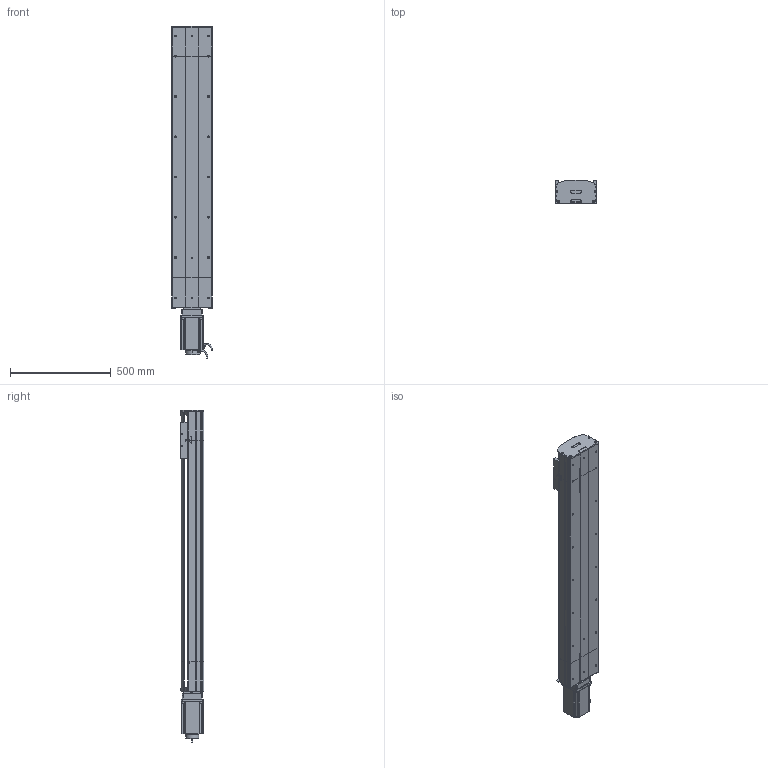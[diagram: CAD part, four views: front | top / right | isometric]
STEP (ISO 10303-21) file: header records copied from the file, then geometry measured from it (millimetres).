
FILE_DESCRIPTION (( 'STEP AP214' ), '1' );
FILE_NAME ('D20 TSH MD S1100.STEP', '2010-06-30T08:40:06', ( 'Conseil Régional Haute-Normandie' ), ( 'Conseil Régional Haute-Normandie' ), 'SwSTEP 2.0', 'SolidWorks 2010', '' );
FILE_SCHEMA (( 'AUTOMOTIVE_DESIGN' ));
Length unit declared in the file: millimetre
Products named in the file (33): head MD D20_Default; Plaque racord D20_Default; plaque de  bout head MD D20_Default; rail + arbre  D20 S1100; course D20 L1100_Default; corp D20 S1100_Default; couvercle D20 S1100_Default; corpl head MD D20_Default; D20 TSH MD S1100; Arbre+rail head D20; Moteur motionking 110BLDC170A-640x; couvercle head l D20_Default; corps 110BLDC170A-630x; tail D20 +100_Default; corpl tail D20 +100_Default; avant 110BLDC170A-630x; codeur 110BLDC170A-630x; Conecteur2_Default; vis M8 L12_Default; clavette; Conecteur_Default; tete d''axe haut D20; tete d''axe bas D20; chariot D20S_Default; guide D20; Chariot D20; 2 vis M5 L12_Default; vis M5 L12_Default; couvercle tail D20_Default; plaque de  bout tail D20_Default; Arbre+rail tail D20; vis M5 L25_Default; vis M5 L8 90°_Default
Assembly tree (56 placements, depth 4):
  D20 TSH MD S1100
    head MD D20_Default
      vis M5 L25_Default  x2
      vis M5 L12_Default  x4
      2 vis M5 L12_Default  x6
      vis M8 L12_Default  x4
      plaque de  bout head MD D20_Default
      couvercle head l D20_Default
      Plaque racord D20_Default
      corpl head MD D20_Default
      Moteur motionking 110BLDC170A-640x
        Conecteur2_Default
        clavette
        Conecteur_Default
        avant 110BLDC170A-630x
        corps 110BLDC170A-630x
        codeur 110BLDC170A-630x
      Arbre+rail head D20
    tail D20 +100_Default
      vis M5 L25_Default  x2
      vis M5 L8 90°_Default  x2
      2 vis M5 L12_Default  x4
      plaque de  bout tail D20_Default
      corpl tail D20 +100_Default
      tete d''axe bas D20
      couvercle tail D20_Default
      Arbre+rail tail D20
      tete d''axe haut D20
    chariot D20S_Default
      vis M5 L12_Default  x4
      guide D20  x2
      Chariot D20
    course D20 L1100_Default
      couvercle D20 S1100_Default
      rail + arbre  D20 S1100
      corp D20 S1100_Default
Bounding box: 206 x 115.7 x 1648.5 mm (x, y, z)
Volume: 13281431 mm3; surface area: 2791556.4 mm2
Topology: 81 solids, 81 shells, 2252 faces, 5697 edges, 3689 vertices
Faces by surface type: plane 1348, cylinder 628, bspline 136, torus 73, cone 67
Entity records: 74668 total; most frequent: CARTESIAN_POINT 24951, ORIENTED_EDGE 8798, DIRECTION 8182, EDGE_CURVE 4399, VECTOR 2910, LINE 2910, VERTEX_POINT 2901, AXIS2_PLACEMENT_3D 2636
